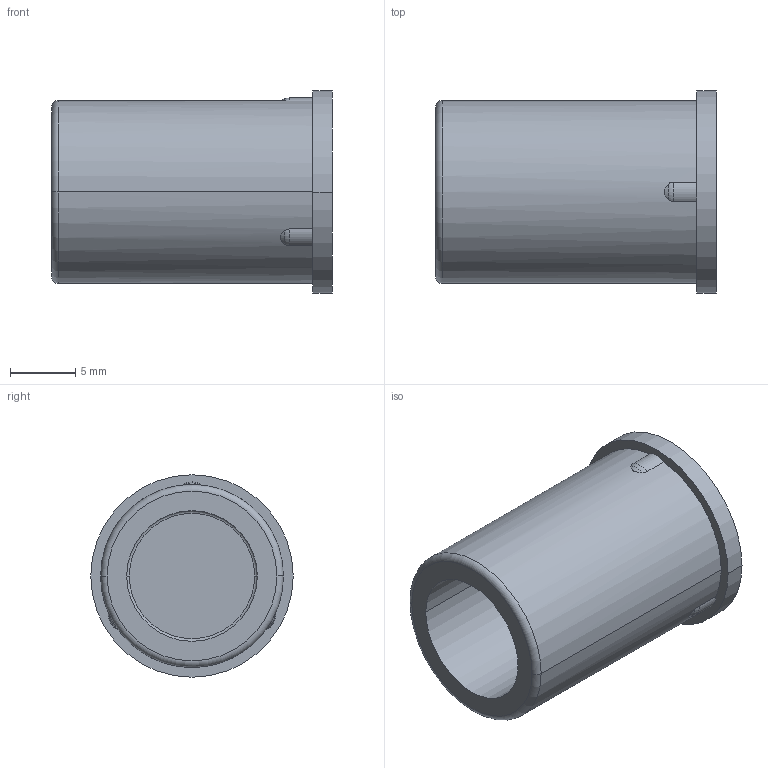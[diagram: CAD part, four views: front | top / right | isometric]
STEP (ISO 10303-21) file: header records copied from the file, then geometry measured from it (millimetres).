
FILE_DESCRIPTION(('Creo Elements/Direct Modeling STEP Export'),'2;1');
FILE_NAME('H20-0029-CL901-00_BB-140S.stp','2021-09-07T14:13:37',(''),(''),'Creo Elements/Direct Modeling STEP processor for AP214 (Solid Model)','Creo Elements/Direct Modeling 20.3B 05-Dec-2020 (C) Parametric Technology GmbH','');
FILE_SCHEMA(('AUTOMOTIVE_DESIGN { 1 0 10303 214 1 1 1 1 }'));
Length unit declared in the file: millimetre
Products named in the file (2): BB-140S
Assembly tree (1 placements, depth 2):
  BB-140S
    BB-140S
Bounding box: 21.5 x 15.5 x 15.5 mm (x, y, z)
Volume: 1790.3 mm3; surface area: 1946.2 mm2
Topology: 1 solids, 1 shells, 26 faces, 79 edges, 60 vertices
Faces by surface type: cylinder 9, plane 7, torus 7, cone 3
Entity records: 1057 total; most frequent: CARTESIAN_POINT 259, DIRECTION 159, ORIENTED_EDGE 158, EDGE_CURVE 79, AXIS2_PLACEMENT_3D 61, VERTEX_POINT 60, VECTOR 37, LINE 37
